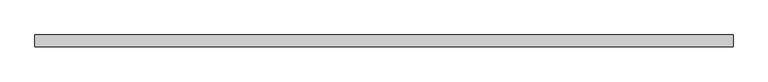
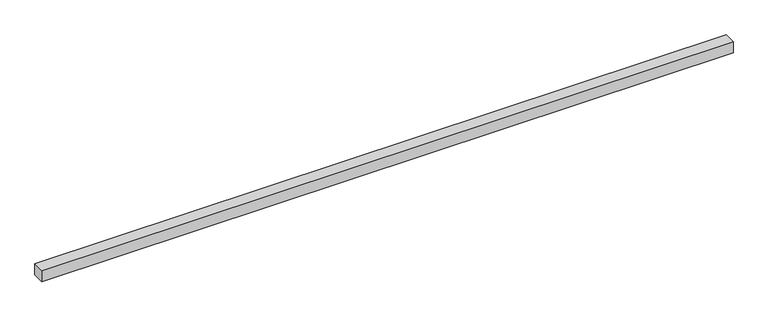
"""IFC4 building model written with IfcOpenShell, lengths in millimetres: light fixture geometry, GENILED_Светильник светодиодный_Line Alum Advanced : Line Alum Advanced 2940x50x50 120Вт 90Ra Опал."""

from ifc_helpers import new_model, si_unit, origin, origin_with_axes, place, context, project, spatial, polyline, outline, extrude, faceted_brep, source, transform, mapped, element, save


def light_fixture_3a14fd99(model_context):
    return source(origin(), model_context, "Body", "SolidModel", [
        faceted_brep([(1470.0, 25.0, 50.0), (-1470.0, 25.0, 50.0), (-1470.0, -25.0, 50.0), (1470.0, -25.0, 50.0), (1468.0, 23.0, 5.0), (1468.0, -23.0, 5.0), (-1468.0, -23.0, 5.0), (-1468.0, 23.0, 5.0), (1470.0, 25.0, 0.0), (1470.0, -25.0, 0.0), (-1470.0, -25.0, 0.0), (-1470.0, 25.0, 0.0), (1468.0, 23.0, 0.0), (-1468.0, 23.0, 0.0), (-1468.0, -23.0, 0.0), (1468.0, -23.0, 0.0)], [[[0, 1, 2, 3]], [[4, 5, 6, 7]], [[8, 9, 10, 11], [12, 13, 14, 15]], [[1, 0, 8, 11]], [[2, 1, 11, 10]], [[3, 2, 10, 9]], [[0, 3, 9, 8]], [[12, 15, 5, 4]], [[15, 14, 6, 5]], [[14, 13, 7, 6]], [[13, 12, 4, 7]]]),
        extrude(outline(polyline([(1468.0, 23.0), (1468.0, -23.0), (-1468.0, -23.0), (-1468.0, 23.0), (1468.0, 23.0)])), origin_with_axes(), (0.0, 0.0, 1.0), 5.0),
    ])


if __name__ == "__main__":
    model = new_model("IFC4")
    model_context = context("Model", 3, world=origin())
    ifc_project = project(units=[si_unit("LENGTHUNIT", "METRE", prefix="MILLI")], contexts=[model_context])
    site = spatial("IfcSite", under=ifc_project)
    building = spatial("IfcBuilding", under=site)
    placement = place(None, origin())
    light_fixture_shape = light_fixture_3a14fd99(model_context)
    element("IfcLightFixture", 1, ObjectType="GENILED_Светильник светодиодный_Line Alum Advanced : Line Alum Advanced 2940x50x50 120Вт 90Ra Опал", at=placement, inside=building, context=model_context, shape_type="MappedRepresentation", body=[
        mapped(light_fixture_shape, transform((0.0, 0.0, 0.0), x_axis=(1.0, 0.0, 0.0), y_axis=(0.0, 1.0, 0.0), z_axis=(0.0, 0.0, 1.0))),
    ])
    save(model, "model.ifc")
